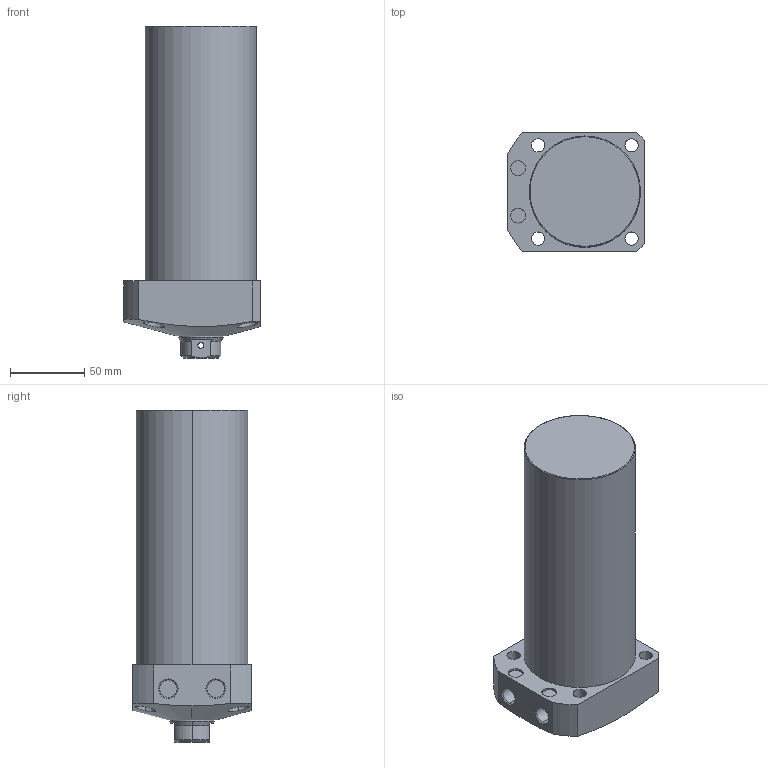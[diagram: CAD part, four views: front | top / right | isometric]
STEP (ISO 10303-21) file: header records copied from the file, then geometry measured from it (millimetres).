
FILE_DESCRIPTION (( 'STEP AP203' ), '1' );
FILE_NAME ('CLL-075CB-135.STEP', '2019-12-24T00:23:45', ( '' ), ( '' ), 'SwSTEP 2.0', 'SolidWorks 2015', '' );
FILE_SCHEMA (( 'CONFIG_CONTROL_DESIGN' ));
Length unit declared in the file: millimetre
Products named in the file (1): CLL-075CB-135
Bounding box: 92 x 80 x 224 mm (x, y, z)
Volume: 978803.2 mm3; surface area: 72939.7 mm2
Topology: 1 solids, 1 shells, 78 faces, 183 edges, 116 vertices
Faces by surface type: cylinder 39, plane 22, cone 15, torus 2
Entity records: 2862 total; most frequent: CARTESIAN_POINT 955, DIRECTION 396, ORIENTED_EDGE 362, EDGE_CURVE 181, AXIS2_PLACEMENT_3D 164, VERTEX_POINT 116, EDGE_LOOP 101, CIRCLE 85
